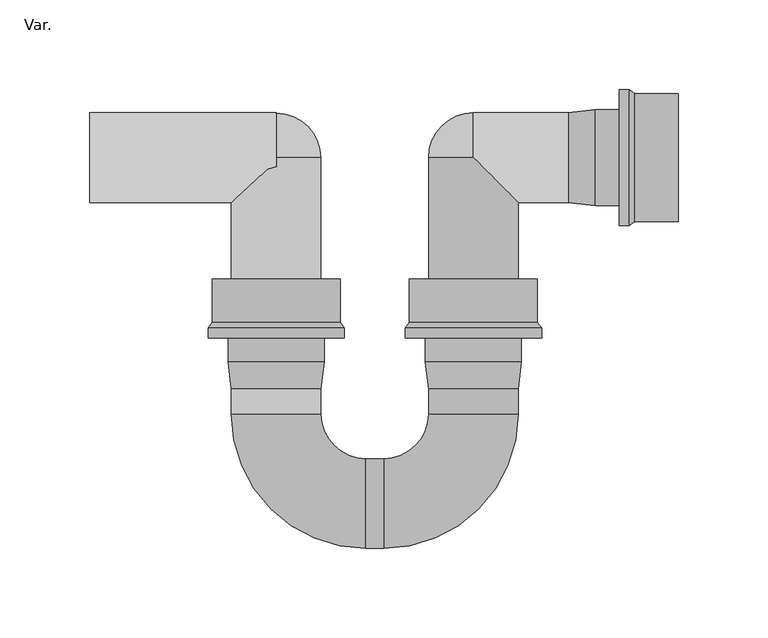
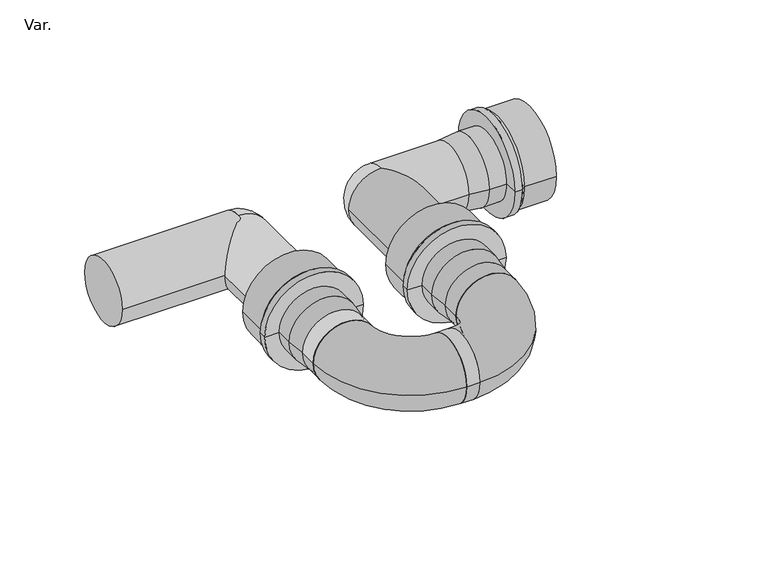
"""IFC4 building model written with IfcOpenShell, lengths in millimetres: pipe fitting geometry, NLRS_52_PIF_UN_HDPE u trap_Akatherm : Var.."""

from ifc_helpers import new_model, si_unit, point, frame, frame_2d, origin, origin_2d, place, context, project, spatial, polyline, circle_curve, ellipse_curve, trimmed, segment, composite_curve, outline, extrude, source, transform, mapped, element, save
from ifc_brep_helpers import plane_surface, cylinder_surface, revolved_surface, advanced_brep


def var_733641dc(model_context):
    return source(origin(), model_context, "Body", "SolidModel", [
        extrude(outline(composite_curve([segment(trimmed(circle_curve(frame_2d((-193.0, 0.0)), 25.0), [point((-218.0, 0.0))], [point((-168.0, 0.0))], False, "CARTESIAN"), True, "CONTINUOUS"), segment(trimmed(circle_curve(frame_2d((-193.0, 0.0)), 25.0), [point((-168.0, 0.0))], [point((-218.0, 0.0))], False, "CARTESIAN"), True, "CONTINUOUS")], self_intersect=False)), frame((-5.0, 0.0, 0.0), z_axis=(1.0, 0.0, 0.0), x_axis=(0.0, 1.0, 0.0)), (0.0, 0.0, 1.0), 10.0),
        extrude(outline(composite_curve([segment(trimmed(circle_curve(origin_2d(), 25.0), [point((25.0, 0.0))], [point((-25.0, 0.0))], False, "CARTESIAN"), True, "CONTINUOUS"), segment(trimmed(circle_curve(origin_2d(), 25.0), [point((-25.0, 0.0))], [point((25.0, 0.0))], False, "CARTESIAN"), True, "CONTINUOUS")], self_intersect=False)), frame((-159.0, 0.0, 0.0), z_axis=(1.0, 0.0, 0.0), x_axis=(0.0, 1.0, 0.0)), (0.0, 0.0, 1.0), 104.0),
        advanced_brep(
        [(-30.0, -143.0, 0.0), (-80.0, -143.0, 0.0), (-55.0, 0.0, -25.0), (-80.0, 0.0, 0.0), (-55.0, 0.0, 25.0), (-30.0, -129.0, 0.0), (-80.0, -129.0, 0.0), (-30.0, -67.7, 0.0), (-30.0, 0.0, 0.0), (-80.0, -67.7, 0.0), (-81.75, -114.0, 0.0), (-28.25, -114.0, 0.0), (-81.75, -100.7, 0.0), (-28.25, -100.7, 0.0), (-93.0, -100.7, 0.0), (-17.0, -100.7, 0.0), (-93.0, -95.1, 0.0), (-17.0, -95.1, 0.0), (-90.75, -92.0, 0.0), (-19.25, -92.0, 0.0), (-90.75, -67.7, 0.0), (-19.25, -67.7, 0.0)],
        [
            (0, 1, circle_curve(frame((-55.0, -143.0, 0.0), z_axis=(0.0, -1.0, 0.0), x_axis=(-1.0, 0.0, 0.0)), 25.0)),
            (1, 0, circle_curve(frame((-55.0, -143.0, 0.0), z_axis=(0.0, -1.0, 0.0), x_axis=(-1.0, 0.0, 0.0)), 25.0)),
            (2, 3, circle_curve(frame((-55.0, 0.0, 0.0), z_axis=(0.0, 1.0, 0.0), x_axis=(-1.0, 0.0, 0.0)), 25.0)),
            (3, 4, circle_curve(frame((-55.0, 0.0, 0.0), z_axis=(0.0, 1.0, 0.0), x_axis=(-1.0, 0.0, 0.0)), 25.0)),
            (4, 2),
            (0, 5),
            (5, 6, circle_curve(frame((-55.0, -129.0, 0.0), z_axis=(0.0, -1.0, 0.0), x_axis=(-1.0, 0.0, 0.0)), 25.0)),
            (6, 1),
            (7, 8),
            (8, 4, circle_curve(frame((-55.0, 0.0, 0.0), z_axis=(0.0, -1.0, 0.0), x_axis=(-1.0, 0.0, 0.0)), 25.0)),
            (3, 9),
            (9, 7, circle_curve(frame((-55.0, -67.7, 0.0), z_axis=(0.0, 1.0, 0.0), x_axis=(-1.0, 0.0, 0.0)), 25.0)),
            (6, 5, circle_curve(frame((-55.0, -129.0, 0.0), z_axis=(0.0, -1.0, 0.0), x_axis=(-1.0, 0.0, 0.0)), 25.0)),
            (7, 9, circle_curve(frame((-55.0, -67.7, 0.0), z_axis=(0.0, 1.0, 0.0), x_axis=(-1.0, 0.0, 0.0)), 25.0)),
            (2, 8, circle_curve(frame((-55.0, 0.0, 0.0), z_axis=(0.0, -1.0, 0.0), x_axis=(-1.0, 0.0, 0.0)), 25.0)),
            (10, 11, circle_curve(frame((-55.0, -114.0, 0.0), z_axis=(0.0, -1.0, 0.0), x_axis=(1.0, 0.0, 0.0)), 26.75)),
            (11, 5),
            (6, 10),
            (11, 10, circle_curve(frame((-55.0, -114.0, 0.0), z_axis=(0.0, -1.0, 0.0), x_axis=(1.0, 0.0, 0.0)), 26.75)),
            (10, 12),
            (12, 13, circle_curve(frame((-55.0, -100.7, 0.0), z_axis=(0.0, -1.0, 0.0), x_axis=(1.0, 0.0, 0.0)), 26.75)),
            (13, 11),
            (13, 12, circle_curve(frame((-55.0, -100.7, 0.0), z_axis=(0.0, -1.0, 0.0), x_axis=(1.0, 0.0, 0.0)), 26.75)),
            (12, 14),
            (14, 15, circle_curve(frame((-55.0, -100.7, 0.0), z_axis=(0.0, -1.0, 0.0), x_axis=(1.0, 0.0, 0.0)), 38.0)),
            (15, 13),
            (15, 14, circle_curve(frame((-55.0, -100.7, 0.0), z_axis=(0.0, -1.0, 0.0), x_axis=(1.0, 0.0, 0.0)), 38.0)),
            (14, 16),
            (16, 17, circle_curve(frame((-55.0, -95.1, 0.0), z_axis=(0.0, -1.0, 0.0), x_axis=(1.0, 0.0, 0.0)), 38.0)),
            (17, 15),
            (17, 16, circle_curve(frame((-55.0, -95.1, 0.0), z_axis=(0.0, -1.0, 0.0), x_axis=(1.0, 0.0, 0.0)), 38.0)),
            (16, 18),
            (18, 19, circle_curve(frame((-55.0, -92.0, 0.0), z_axis=(0.0, -1.0, 0.0), x_axis=(1.0, 0.0, 0.0)), 35.75)),
            (19, 17),
            (19, 18, circle_curve(frame((-55.0, -92.0, 0.0), z_axis=(0.0, -1.0, 0.0), x_axis=(1.0, 0.0, 0.0)), 35.75)),
            (18, 20),
            (20, 21, circle_curve(frame((-55.0, -67.7, 0.0), z_axis=(0.0, -1.0, 0.0), x_axis=(1.0, 0.0, 0.0)), 35.75)),
            (21, 19),
            (21, 20, circle_curve(frame((-55.0, -67.7, 0.0), z_axis=(0.0, -1.0, 0.0), x_axis=(1.0, 0.0, 0.0)), 35.75)),
            (20, 9),
            (7, 21),
            (4, 2, circle_curve(frame((-55.0, 0.0, 0.0), z_axis=(-1.0, 0.0, 0.0), x_axis=(0.0, 0.0, 1.0)), 25.0)),
        ],
        [
            plane_surface(frame((-55.0, -143.0, 0.0), z_axis=(0.0, -1.0, 0.0), x_axis=(0.0, 0.0, 1.0))),
            plane_surface(frame((-55.0, 0.0, 0.0), z_axis=(0.0, 1.0, 0.0), x_axis=(0.0, 0.0, 1.0))),
            cylinder_surface(frame((-55.0, -143.0, 0.0), z_axis=(0.0, -1.0, 0.0), x_axis=(-1.0, 0.0, 0.0)), 25.0),
            revolved_surface(polyline([(-30.0, -129.0, 0.0), (-28.25, -114.0, 0.0)]), (-55.0, -82.7, 0.0), (0.0, 1.0, 0.0)),
            cylinder_surface(frame((-55.0, -82.7, 0.0), z_axis=(0.0, 1.0, 0.0), x_axis=(1.0, 0.0, 0.0)), 26.75),
            plane_surface(frame((-55.0, -100.7, 0.0), z_axis=(0.0, -1.0, 0.0), x_axis=(1.0, 0.0, 0.0))),
            cylinder_surface(frame((-55.0, -82.7, 0.0), z_axis=(0.0, 1.0, 0.0), x_axis=(1.0, 0.0, 0.0)), 38.0),
            revolved_surface(polyline([(-17.0, -95.1, 0.0), (-19.25, -92.0, 0.0)]), (-55.0, -82.7, 0.0), (0.0, 1.0, 0.0)),
            cylinder_surface(frame((-55.0, -82.7, 0.0), z_axis=(0.0, 1.0, 0.0), x_axis=(1.0, 0.0, 0.0)), 35.75),
            plane_surface(frame((-55.0, -67.7, 0.0), z_axis=(0.0, 1.0, 0.0), x_axis=(1.0, 0.0, 0.0))),
            plane_surface(frame((-55.0, 0.0, -102.0), z_axis=(-1.0, 0.0, 0.0), x_axis=(0.0, 1.0, 0.0))),
            revolved_surface(trimmed(ellipse_curve(frame((-55.0, 0.0, 0.0), z_axis=(1.0, 0.0, 0.0), x_axis=(0.0, 0.0, 1.0)), 25.0, 25.0), [point((-55.0, 0.0, -25.0))], [point((-55.0, 0.0, 25.0))], True, "CARTESIAN"), (-55.0, 0.0, -102.0), (0.0, 0.0, 1.0)),
        ],
        [
            (0, [[1, 2]]),
            (1, [[3, 4, 5]]),
            (2, [[-1, 6, 7, 8]]),
            (2, [[9, 10, -4, 11, 12]]),
            (2, [[-2, -8, 13, -6]]),
            (2, [[-9, 14, -11, -3, 15]]),
            (3, [[16, 17, -13, 18]]),
            (3, [[-17, 19, -18, -7]]),
            (4, [[-16, 20, 21, 22]]),
            (4, [[-19, -22, 23, -20]]),
            (5, [[-21, 24, 25, 26]]),
            (5, [[-23, -26, 27, -24]]),
            (6, [[-25, 28, 29, 30]]),
            (6, [[-27, -30, 31, -28]]),
            (7, [[-29, 32, 33, 34]]),
            (7, [[-31, -34, 35, -32]]),
            (8, [[-33, 36, 37, 38]]),
            (8, [[-35, -38, 39, -36]]),
            (9, [[-37, 40, -14, 41]]),
            (9, [[-39, -41, -12, -40]]),
            (10, [[42, -5]]),
            (11, [[-42, -10, -15]]),
        ],
    ),
        advanced_brep(
        [(30.0, -143.0, 0.0), (80.0, -143.0, 0.0), (80.0, -129.0, 0.0), (30.0, -129.0, 0.0), (30.0, 0.0, 0.0), (30.0, -67.7, 0.0), (80.0, -67.7, 0.0), (80.0, -25.0, 0.0), (55.0, 0.0, 25.0), (55.0, 0.0, -25.0), (28.25, -114.0, 0.0), (81.75, -114.0, 0.0), (28.25, -100.7, 0.0), (81.75, -100.7, 0.0), (17.0, -100.7, 0.0), (93.0, -100.7, 0.0), (17.0, -95.1, 0.0), (93.0, -95.1, 0.0), (19.25, -92.0, 0.0), (90.75, -92.0, 0.0), (19.25, -67.7, 0.0), (90.75, -67.7, 0.0), (108.0, -25.0, 0.0), (108.0, 25.0, 0.0), (55.0, 25.0, 0.0), (169.3, -35.75, 0.0), (169.3, 35.75, 0.0), (169.3, 0.0, 0.0), (145.0, -35.75, 0.0), (145.0, 35.75, 0.0), (141.9, -38.0, 0.0), (141.9, 38.0, 0.0), (136.3, -38.0, 0.0), (136.3, 38.0, 0.0), (136.3, -26.75, 0.0), (136.3, 26.75, 0.0), (123.0, -26.75, 0.0), (123.0, 26.75, 0.0)],
        [
            (0, 1, circle_curve(frame((55.0, -143.0, 0.0), z_axis=(0.0, -1.0, 0.0), x_axis=(1.0, 0.0, 0.0)), 25.0)),
            (1, 0, circle_curve(frame((55.0, -143.0, 0.0), z_axis=(0.0, -1.0, 0.0), x_axis=(1.0, 0.0, 0.0)), 25.0)),
            (1, 2),
            (2, 3, circle_curve(frame((55.0, -129.0, 0.0), z_axis=(0.0, -1.0, 0.0), x_axis=(1.0, 0.0, 0.0)), 25.0)),
            (3, 0),
            (4, 5),
            (5, 6, circle_curve(frame((55.0, -67.7, 0.0), z_axis=(0.0, 1.0, 0.0), x_axis=(1.0, 0.0, 0.0)), 25.0)),
            (6, 7),
            (7, 8, ellipse_curve(frame((55.0, 0.0, 0.0), z_axis=(-0.7071067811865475, -0.7071067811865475, 0.0), x_axis=(-0.7071067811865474, 0.7071067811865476, 0.0)), 35.3553391, 25.0)),
            (8, 4, circle_curve(frame((55.0, 0.0, 0.0), z_axis=(0.0, -1.0, 0.0), x_axis=(1.0, 0.0, 0.0)), 25.0)),
            (3, 2, circle_curve(frame((55.0, -129.0, 0.0), z_axis=(0.0, -1.0, 0.0), x_axis=(1.0, 0.0, 0.0)), 25.0)),
            (4, 9, circle_curve(frame((55.0, 0.0, 0.0), z_axis=(0.0, -1.0, 0.0), x_axis=(1.0, 0.0, 0.0)), 25.0)),
            (9, 7, ellipse_curve(frame((55.0, 0.0, 0.0), z_axis=(-0.7071067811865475, -0.7071067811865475, 0.0), x_axis=(-0.7071067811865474, 0.7071067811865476, 0.0)), 35.3553391, 25.0)),
            (6, 5, circle_curve(frame((55.0, -67.7, 0.0), z_axis=(0.0, 1.0, 0.0), x_axis=(1.0, 0.0, 0.0)), 25.0)),
            (10, 11, circle_curve(frame((55.0, -114.0, 0.0), z_axis=(0.0, -1.0, 0.0), x_axis=(1.0, 0.0, 0.0)), 26.75)),
            (11, 2),
            (3, 10),
            (11, 10, circle_curve(frame((55.0, -114.0, 0.0), z_axis=(0.0, -1.0, 0.0), x_axis=(1.0, 0.0, 0.0)), 26.75)),
            (10, 12),
            (12, 13, circle_curve(frame((55.0, -100.7, 0.0), z_axis=(0.0, -1.0, 0.0), x_axis=(1.0, 0.0, 0.0)), 26.75)),
            (13, 11),
            (13, 12, circle_curve(frame((55.0, -100.7, 0.0), z_axis=(0.0, -1.0, 0.0), x_axis=(1.0, 0.0, 0.0)), 26.75)),
            (12, 14),
            (14, 15, circle_curve(frame((55.0, -100.7, 0.0), z_axis=(0.0, -1.0, 0.0), x_axis=(1.0, 0.0, 0.0)), 38.0)),
            (15, 13),
            (15, 14, circle_curve(frame((55.0, -100.7, 0.0), z_axis=(0.0, -1.0, 0.0), x_axis=(1.0, 0.0, 0.0)), 38.0)),
            (14, 16),
            (16, 17, circle_curve(frame((55.0, -95.1, 0.0), z_axis=(0.0, -1.0, 0.0), x_axis=(1.0, 0.0, 0.0)), 38.0)),
            (17, 15),
            (17, 16, circle_curve(frame((55.0, -95.1, 0.0), z_axis=(0.0, -1.0, 0.0), x_axis=(1.0, 0.0, 0.0)), 38.0)),
            (16, 18),
            (18, 19, circle_curve(frame((55.0, -92.0, 0.0), z_axis=(0.0, -1.0, 0.0), x_axis=(1.0, 0.0, 0.0)), 35.75)),
            (19, 17),
            (19, 18, circle_curve(frame((55.0, -92.0, 0.0), z_axis=(0.0, -1.0, 0.0), x_axis=(1.0, 0.0, 0.0)), 35.75)),
            (18, 20),
            (20, 21, circle_curve(frame((55.0, -67.7, 0.0), z_axis=(0.0, -1.0, 0.0), x_axis=(1.0, 0.0, 0.0)), 35.75)),
            (21, 19),
            (21, 20, circle_curve(frame((55.0, -67.7, 0.0), z_axis=(0.0, -1.0, 0.0), x_axis=(1.0, 0.0, 0.0)), 35.75)),
            (20, 5),
            (6, 21),
            (7, 22),
            (22, 23, circle_curve(frame((108.0, 0.0, 0.0), z_axis=(-1.0, 0.0, 0.0), x_axis=(0.0, -1.0, 0.0)), 25.0)),
            (23, 24),
            (24, 8, circle_curve(frame((55.0, 0.0, 0.0), z_axis=(1.0, 0.0, 0.0), x_axis=(0.0, -1.0, 0.0)), 25.0)),
            (9, 24, circle_curve(frame((55.0, 0.0, 0.0), z_axis=(1.0, 0.0, 0.0), x_axis=(0.0, -1.0, 0.0)), 25.0)),
            (23, 22, circle_curve(frame((108.0, 0.0, 0.0), z_axis=(-1.0, 0.0, 0.0), x_axis=(0.0, -1.0, 0.0)), 25.0)),
            (25, 26, circle_curve(frame((169.3, 0.0, 0.0), z_axis=(1.0, 0.0, 0.0), x_axis=(0.0, 1.0, 0.0)), 35.75)),
            (26, 27),
            (27, 25),
            (26, 25, circle_curve(frame((169.3, 0.0, 0.0), z_axis=(1.0, 0.0, 0.0), x_axis=(0.0, 1.0, 0.0)), 35.75)),
            (25, 28),
            (28, 29, circle_curve(frame((145.0, 0.0, 0.0), z_axis=(1.0, 0.0, 0.0), x_axis=(0.0, 1.0, 0.0)), 35.75)),
            (29, 26),
            (29, 28, circle_curve(frame((145.0, 0.0, 0.0), z_axis=(1.0, 0.0, 0.0), x_axis=(0.0, 1.0, 0.0)), 35.75)),
            (28, 30),
            (30, 31, circle_curve(frame((141.9, 0.0, 0.0), z_axis=(1.0, 0.0, 0.0), x_axis=(0.0, 1.0, 0.0)), 38.0)),
            (31, 29),
            (31, 30, circle_curve(frame((141.9, 0.0, 0.0), z_axis=(1.0, 0.0, 0.0), x_axis=(0.0, 1.0, 0.0)), 38.0)),
            (30, 32),
            (32, 33, circle_curve(frame((136.3, 0.0, 0.0), z_axis=(1.0, 0.0, 0.0), x_axis=(0.0, 1.0, 0.0)), 38.0)),
            (33, 31),
            (33, 32, circle_curve(frame((136.3, 0.0, 0.0), z_axis=(1.0, 0.0, 0.0), x_axis=(0.0, 1.0, 0.0)), 38.0)),
            (32, 34),
            (34, 35, circle_curve(frame((136.3, 0.0, 0.0), z_axis=(1.0, 0.0, 0.0), x_axis=(0.0, 1.0, 0.0)), 26.75)),
            (35, 33),
            (35, 34, circle_curve(frame((136.3, 0.0, 0.0), z_axis=(1.0, 0.0, 0.0), x_axis=(0.0, 1.0, 0.0)), 26.75)),
            (34, 36),
            (36, 37, circle_curve(frame((123.0, 0.0, 0.0), z_axis=(1.0, 0.0, 0.0), x_axis=(0.0, 1.0, 0.0)), 26.75)),
            (37, 35),
            (37, 36, circle_curve(frame((123.0, 0.0, 0.0), z_axis=(1.0, 0.0, 0.0), x_axis=(0.0, 1.0, 0.0)), 26.75)),
            (36, 22),
            (23, 37),
        ],
        [
            plane_surface(frame((55.0, -143.0, 0.0), z_axis=(0.0, -1.0, 0.0), x_axis=(0.0, 0.0, 1.0))),
            cylinder_surface(frame((55.0, 0.0, 0.0), z_axis=(0.0, 1.0, 0.0), x_axis=(1.0, 0.0, 0.0)), 25.0),
            revolved_surface(polyline([(80.0, -129.0, 0.0), (81.75, -114.0, 0.0)]), (55.0, -82.7, 0.0), (0.0, 1.0, 0.0)),
            cylinder_surface(frame((55.0, -82.7, 0.0), z_axis=(0.0, 1.0, 0.0), x_axis=(1.0, 0.0, 0.0)), 26.75),
            plane_surface(frame((55.0, -100.7, 0.0), z_axis=(0.0, -1.0, 0.0), x_axis=(1.0, 0.0, 0.0))),
            cylinder_surface(frame((55.0, -82.7, 0.0), z_axis=(0.0, 1.0, 0.0), x_axis=(1.0, 0.0, 0.0)), 38.0),
            revolved_surface(polyline([(93.0, -95.1, 0.0), (90.75, -92.0, 0.0)]), (55.0, -82.7, 0.0), (0.0, 1.0, 0.0)),
            cylinder_surface(frame((55.0, -82.7, 0.0), z_axis=(0.0, 1.0, 0.0), x_axis=(1.0, 0.0, 0.0)), 35.75),
            plane_surface(frame((55.0, -67.7, 0.0), z_axis=(0.0, 1.0, 0.0), x_axis=(1.0, 0.0, 0.0))),
            cylinder_surface(frame((122.0, 0.0, 0.0), z_axis=(1.0, 0.0, 0.0), x_axis=(0.0, -1.0, 0.0)), 25.0),
            plane_surface(frame((169.3, 0.0, 0.0), z_axis=(1.0, 0.0, 0.0), x_axis=(0.0, 1.0, 0.0))),
            cylinder_surface(frame((90.2615981, 0.0, 0.0), z_axis=(-1.0, 0.0, 0.0), x_axis=(0.0, 1.0, 0.0)), 35.75),
            revolved_surface(polyline([(145.0, 35.75, 0.0), (141.9, 38.0, 0.0)]), (90.2615981, 0.0, 0.0), (-1.0, 0.0, 0.0)),
            cylinder_surface(frame((90.2615981, 0.0, 0.0), z_axis=(-1.0, 0.0, 0.0), x_axis=(0.0, 1.0, 0.0)), 38.0),
            plane_surface(frame((136.3, 0.0, 0.0), z_axis=(-1.0, 0.0, 0.0), x_axis=(0.0, 1.0, 0.0))),
            cylinder_surface(frame((90.2615981, 0.0, 0.0), z_axis=(-1.0, 0.0, 0.0), x_axis=(0.0, 1.0, 0.0)), 26.75),
            revolved_surface(polyline([(123.0, 26.75, 0.0), (108.0, 25.0, 0.0)]), (90.2615981, 0.0, 0.0), (-1.0, 0.0, 0.0)),
            revolved_surface(trimmed(ellipse_curve(frame((55.0, 0.0, 0.0), z_axis=(-1.0, 0.0, 0.0), x_axis=(0.0, 0.0, 1.0)), 25.0, 25.0), [point((55.0, 0.0, 25.0))], [point((55.0, 0.0, -25.0))], True, "CARTESIAN"), (55.0, 0.0, -96.3827467), (0.0, 0.0, -1.0)),
        ],
        [
            (0, [[1, 2]]),
            (1, [[-2, 3, 4, 5]]),
            (1, [[6, 7, 8, 9, 10]]),
            (1, [[-1, -5, 11, -3]]),
            (1, [[-6, 12, 13, -8, 14]]),
            (2, [[15, 16, -11, 17]]),
            (2, [[-16, 18, -17, -4]]),
            (3, [[-15, 19, 20, 21]]),
            (3, [[-18, -21, 22, -19]]),
            (4, [[-20, 23, 24, 25]]),
            (4, [[-22, -25, 26, -23]]),
            (5, [[-24, 27, 28, 29]]),
            (5, [[-26, -29, 30, -27]]),
            (6, [[-28, 31, 32, 33]]),
            (6, [[-30, -33, 34, -31]]),
            (7, [[-32, 35, 36, 37]]),
            (7, [[-34, -37, 38, -35]]),
            (8, [[-36, 39, -14, 40]]),
            (8, [[-38, -40, -7, -39]]),
            (9, [[-9, 41, 42, 43, 44]]),
            (9, [[-13, 45, -43, 46, -41]]),
            (10, [[47, 48, 49]]),
            (10, [[-48, 50, -49]]),
            (11, [[-47, 51, 52, 53]]),
            (11, [[-50, -53, 54, -51]]),
            (12, [[-52, 55, 56, 57]]),
            (12, [[-54, -57, 58, -55]]),
            (13, [[-56, 59, 60, 61]]),
            (13, [[-58, -61, 62, -59]]),
            (14, [[-60, 63, 64, 65]]),
            (14, [[-62, -65, 66, -63]]),
            (15, [[-64, 67, 68, 69]]),
            (15, [[-66, -69, 70, -67]]),
            (16, [[-68, 71, -46, 72]]),
            (16, [[-70, -72, -42, -71]]),
            (17, [[-10, -44, -45, -12]]),
        ],
    ),
        advanced_brep(
        [(30.0, -143.0, 0.0), (80.0, -143.0, 0.0), (5.0, -168.0, 0.0), (5.0, -218.0, 0.0)],
        [
            (0, 1, circle_curve(frame((55.0, -143.0, 0.0), z_axis=(0.0, 1.0, 0.0), x_axis=(1.0, 0.0, 0.0)), 25.0)),
            (1, 0, circle_curve(frame((55.0, -143.0, 0.0), z_axis=(0.0, 1.0, 0.0), x_axis=(1.0, 0.0, 0.0)), 25.0)),
            (2, 3, circle_curve(frame((5.0, -193.0, 0.0), z_axis=(-1.0, 0.0, 0.0), x_axis=(0.0, -1.0, 0.0)), 25.0)),
            (3, 2, circle_curve(frame((5.0, -193.0, 0.0), z_axis=(-1.0, 0.0, 0.0), x_axis=(0.0, -1.0, 0.0)), 25.0)),
            (2, 0, circle_curve(frame((5.0, -143.0, 0.0), z_axis=(0.0, 0.0, 1.0), x_axis=(1.0, 0.0, 0.0)), 25.0)),
            (1, 3, circle_curve(frame((5.0, -143.0, 0.0), z_axis=(0.0, 0.0, -1.0), x_axis=(1.0, 0.0, 0.0)), 75.0)),
        ],
        [
            plane_surface(frame((55.0, -143.0, 0.0), z_axis=(0.0, 1.0, 0.0), x_axis=(0.0, 0.0, 1.0))),
            plane_surface(frame((5.0, -193.0, 0.0), z_axis=(-1.0, 0.0, 0.0), x_axis=(0.0, 0.0, 1.0))),
            revolved_surface(trimmed(ellipse_curve(frame((55.0, -143.0, 0.0), z_axis=(0.0, 1.0, 0.0), x_axis=(1.0, 0.0, 0.0)), 25.0, 25.0), [point((80.0, -143.0, 0.0))], [point((30.0, -143.0, 0.0))], True, "CARTESIAN"), (5.0, -143.0, 0.0), (0.0, 0.0, -1.0)),
            revolved_surface(trimmed(ellipse_curve(frame((55.0, -143.0, 0.0), z_axis=(0.0, 1.0, 0.0), x_axis=(1.0, 0.0, 0.0)), 25.0, 25.0), [point((30.0, -143.0, 0.0))], [point((80.0, -143.0, 0.0))], True, "CARTESIAN"), (5.0, -143.0, 0.0), (0.0, 0.0, -1.0)),
        ],
        [
            (0, [[1, 2]]),
            (1, [[3, 4]]),
            (2, [[5, -2, 6, -3]]),
            (3, [[-6, -1, -5, -4]]),
        ],
    ),
        advanced_brep(
        [(-80.0, -143.0, 0.0), (-30.0, -143.0, 0.0), (-5.0, -218.0, 0.0), (-5.0, -168.0, 0.0)],
        [
            (0, 1, circle_curve(frame((-55.0, -143.0, 0.0), z_axis=(0.0, 1.0, 0.0), x_axis=(1.0, 0.0, 0.0)), 25.0)),
            (1, 0, circle_curve(frame((-55.0, -143.0, 0.0), z_axis=(0.0, 1.0, 0.0), x_axis=(1.0, 0.0, 0.0)), 25.0)),
            (2, 3, circle_curve(frame((-5.0, -193.0, 0.0), z_axis=(1.0, 0.0, 0.0), x_axis=(0.0, 1.0, 0.0)), 25.0)),
            (3, 2, circle_curve(frame((-5.0, -193.0, 0.0), z_axis=(1.0, 0.0, 0.0), x_axis=(0.0, 1.0, 0.0)), 25.0)),
            (3, 1, circle_curve(frame((-5.0, -143.0, 0.0), z_axis=(0.0, 0.0, -1.0), x_axis=(-1.0, 0.0, 0.0)), 25.0)),
            (0, 2, circle_curve(frame((-5.0, -143.0, 0.0), z_axis=(0.0, 0.0, 1.0), x_axis=(-1.0, 0.0, 0.0)), 75.0)),
        ],
        [
            plane_surface(frame((-55.0, -143.0, 0.0), z_axis=(0.0, 1.0, 0.0), x_axis=(0.0, 0.0, 1.0))),
            plane_surface(frame((-5.0, -193.0, 0.0), z_axis=(1.0, 0.0, 0.0), x_axis=(0.0, 0.0, 1.0))),
            revolved_surface(trimmed(ellipse_curve(frame((-55.0, -143.0, 0.0), z_axis=(0.0, 1.0, 0.0), x_axis=(1.0, 0.0, 0.0)), 25.0, 25.0), [point((-80.0, -143.0, 0.0))], [point((-30.0, -143.0, 0.0))], True, "CARTESIAN"), (-5.0, -143.0, 0.0), (0.0, 0.0, 1.0)),
            revolved_surface(trimmed(ellipse_curve(frame((-55.0, -143.0, 0.0), z_axis=(0.0, 1.0, 0.0), x_axis=(1.0, 0.0, 0.0)), 25.0, 25.0), [point((-30.0, -143.0, 0.0))], [point((-80.0, -143.0, 0.0))], True, "CARTESIAN"), (-5.0, -143.0, 0.0), (0.0, 0.0, 1.0)),
        ],
        [
            (0, [[1, 2]]),
            (1, [[3, 4]]),
            (2, [[5, -1, 6, -4]]),
            (3, [[-6, -2, -5, -3]]),
        ],
    ),
    ])


if __name__ == "__main__":
    model = new_model("IFC4")
    model_context = context("Model", 3, world=origin())
    ifc_project = project(units=[si_unit("LENGTHUNIT", "METRE", prefix="MILLI")], contexts=[model_context])
    site = spatial("IfcSite", under=ifc_project)
    building = spatial("IfcBuilding", under=site)
    placement = place(None, origin())
    var_shape = var_733641dc(model_context)
    element("IfcPipeFitting", 1, ObjectType="NLRS_52_PIF_UN_HDPE u trap_Akatherm : Var.", at=placement, inside=building, context=model_context, shape_type="MappedRepresentation", body=[
        mapped(var_shape, transform((0.0, 0.0, 0.0), x_axis=(1.0, 0.0, 0.0), y_axis=(0.0, 1.0, 0.0), z_axis=(0.0, 0.0, 1.0))),
    ])
    save(model, "model.ifc")
